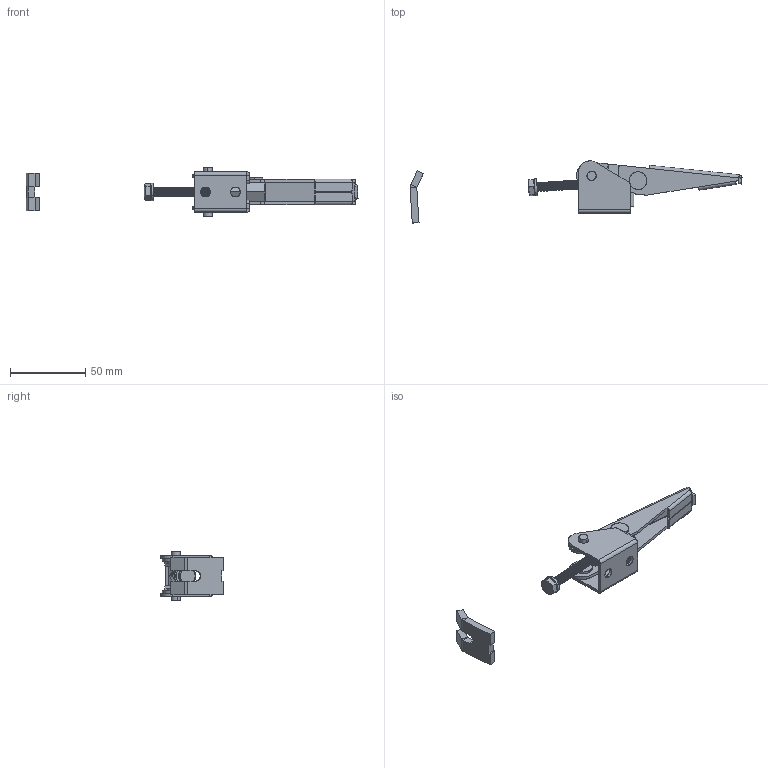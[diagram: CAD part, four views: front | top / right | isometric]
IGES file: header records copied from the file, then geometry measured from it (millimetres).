
Start section: SolidWorks IGES file using analytic representation for surfaces
Global section: file name: \\BARTOP_SV6\share\SOLIDWORKS\工具事業部\坂入用\受け渡し\作業中\2015.06.30\ISK-FA1200\ISK-FA1200.IGS; native system: SolidWorks 2015; preprocessor: SolidWorks 2015; author: SOLID02; date: 150630.160002; units: millimetre
Bounding box: 221.14 x 41.4 x 32.73 mm (x, y, z)
Surface area: 23372.5 mm2 (no closed solid volume)
Topology: 0 solids, 0 shells, 608 faces, 5349 edges, 5349 vertices
Faces by surface type: revolution 431, bspline 177
